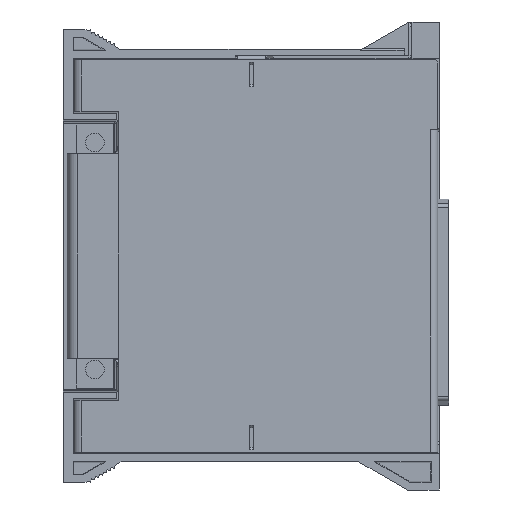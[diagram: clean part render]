
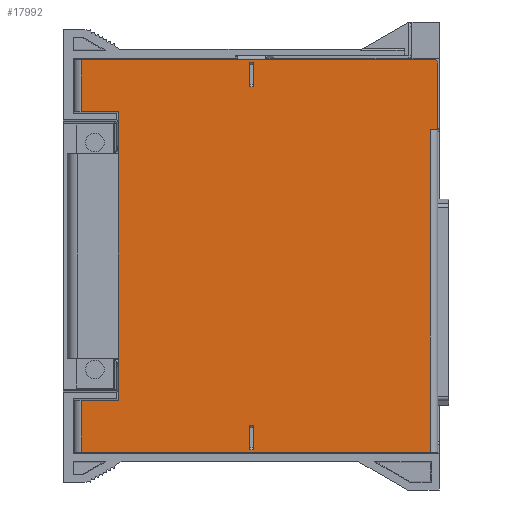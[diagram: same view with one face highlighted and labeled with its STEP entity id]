
A CAD part, top view. The second image highlights one B-rep face of the part: STEP entity #17992.
In plain terms, the highlighted planar face has unit normal (0, 0, 1).
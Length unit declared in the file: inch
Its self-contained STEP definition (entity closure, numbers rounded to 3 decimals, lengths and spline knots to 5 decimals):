
#1417=DIRECTION('',(0.,1.,0.));
#1418=VECTOR('',#1417,1.8);
#1419=CARTESIAN_POINT('',(-2.82745,-0.9,0.382));
#1420=LINE('',#1419,#1418);
#1425=DIRECTION('',(0.,1.,0.));
#1426=VECTOR('',#1425,0.3725);
#1427=CARTESIAN_POINT('',(-2.82745,0.9,0.382));
#1428=LINE('',#1427,#1426);
#1429=DIRECTION('',(1.,0.,0.));
#1430=VECTOR('',#1429,0.328);
#1431=CARTESIAN_POINT('',(-3.15545,1.2725,0.382));
#1432=LINE('',#1431,#1430);
#1433=DIRECTION('',(-1.,0.,0.));
#1434=VECTOR('',#1433,3.123);
#1435=CARTESIAN_POINT('',(-0.03245,1.73,0.382));
#1436=LINE('',#1435,#1434);
#1437=DIRECTION('',(0.,1.,0.));
#1438=VECTOR('',#1437,0.595);
#1439=CARTESIAN_POINT('',(-0.01245,1.115,0.382));
#1440=LINE('',#1439,#1438);
#1441=DIRECTION('',(1.,0.,0.));
#1442=VECTOR('',#1441,0.067);
#1443=CARTESIAN_POINT('',(-0.07945,1.115,0.382));
#1444=LINE('',#1443,#1442);
#1445=DIRECTION('',(1.,0.,0.));
#1446=VECTOR('',#1445,3.076);
#1447=CARTESIAN_POINT('',(-3.15545,-1.73,0.382));
#1448=LINE('',#1447,#1446);
#1449=DIRECTION('',(1.,0.,0.));
#1450=VECTOR('',#1449,0.328);
#1451=CARTESIAN_POINT('',(-3.15545,-1.2725,0.382));
#1452=LINE('',#1451,#1450);
#1453=DIRECTION('',(0.,1.,0.));
#1454=VECTOR('',#1453,0.3725);
#1455=CARTESIAN_POINT('',(-2.82745,-1.2725,0.382));
#1456=LINE('',#1455,#1454);
#1457=CARTESIAN_POINT('',(-1.65625,-1.6,0.382));
#1458=DIRECTION('',(0.,0.,-1.));
#1459=DIRECTION('',(-0.159,0.987,0.));
#1460=AXIS2_PLACEMENT_3D('',#1457,#1458,#1459);
#1462=DIRECTION('',(0.,-1.,0.));
#1463=VECTOR('',#1462,0.2172);
#1464=CARTESIAN_POINT('',(-1.67375,-1.4914,0.382));
#1465=LINE('',#1464,#1463);
#1466=CARTESIAN_POINT('',(-1.65625,-1.6,0.382));
#1467=DIRECTION('',(0.,0.,-1.));
#1468=DIRECTION('',(0.159,-0.987,0.));
#1469=AXIS2_PLACEMENT_3D('',#1466,#1467,#1468);
#1471=DIRECTION('',(0.,1.,0.));
#1472=VECTOR('',#1471,0.2172);
#1473=CARTESIAN_POINT('',(-1.63875,-1.7086,0.382));
#1474=LINE('',#1473,#1472);
#1475=CARTESIAN_POINT('',(-1.65625,1.6,0.382));
#1476=DIRECTION('',(0.,0.,1.));
#1477=DIRECTION('',(0.159,0.987,0.));
#1478=AXIS2_PLACEMENT_3D('',#1475,#1476,#1477);
#1480=DIRECTION('',(0.,-1.,0.));
#1481=VECTOR('',#1480,0.2172);
#1482=CARTESIAN_POINT('',(-1.67375,1.7086,0.382));
#1483=LINE('',#1482,#1481);
#1484=CARTESIAN_POINT('',(-1.65625,1.6,0.382));
#1485=DIRECTION('',(0.,0.,1.));
#1486=DIRECTION('',(-0.159,-0.987,0.));
#1487=AXIS2_PLACEMENT_3D('',#1484,#1485,#1486);
#1489=DIRECTION('',(0.,1.,0.));
#1490=VECTOR('',#1489,0.2172);
#1491=CARTESIAN_POINT('',(-1.63875,1.4914,0.382));
#1492=LINE('',#1491,#1490);
#1839=DIRECTION('',(0.,1.,0.));
#1840=VECTOR('',#1839,0.4575);
#1841=CARTESIAN_POINT('',(-3.15545,-1.73,0.382));
#1842=LINE('',#1841,#1840);
#7244=DIRECTION('',(0.,-1.,0.));
#7245=VECTOR('',#7244,2.845);
#7246=CARTESIAN_POINT('',(-0.07945,1.115,0.382));
#7247=LINE('',#7246,#7245);
#7339=DIRECTION('',(-0.707,0.707,0.));
#7340=VECTOR('',#7339,0.02828);
#7341=CARTESIAN_POINT('',(-0.01245,1.71,0.382));
#7342=LINE('',#7341,#7340);
#7386=DIRECTION('',(0.,1.,0.));
#7387=VECTOR('',#7386,0.4575);
#7388=CARTESIAN_POINT('',(-3.15545,1.2725,0.382));
#7389=LINE('',#7388,#7387);
#11087=CARTESIAN_POINT('',(-1.67375,-1.4914,0.382));
#11089=CARTESIAN_POINT('',(-1.63875,-1.4914,0.382));
#11114=CARTESIAN_POINT('',(-1.63875,-1.7086,0.382));
#11116=CARTESIAN_POINT('',(-1.67375,-1.7086,0.382));
#11128=CARTESIAN_POINT('',(-1.67375,1.7086,0.382));
#11140=CARTESIAN_POINT('',(-1.63875,1.7086,0.382));
#11155=CARTESIAN_POINT('',(-1.63875,1.4914,0.382));
#11167=CARTESIAN_POINT('',(-1.67375,1.4914,0.382));
#16407=CARTESIAN_POINT('',(-3.15545,1.73,0.382));
#16409=VERTEX_POINT('',#16407);
#16411=CARTESIAN_POINT('',(-3.15545,-1.73,0.382));
#16413=VERTEX_POINT('',#16411);
#16422=CARTESIAN_POINT('',(-3.15545,-1.2725,0.382));
#16423=CARTESIAN_POINT('',(-2.82745,-1.2725,0.382));
#16424=VERTEX_POINT('',#16422);
#16425=VERTEX_POINT('',#16423);
#16426=CARTESIAN_POINT('',(-3.15545,1.2725,0.382));
#16427=CARTESIAN_POINT('',(-2.82745,1.2725,0.382));
#16428=VERTEX_POINT('',#16426);
#16429=VERTEX_POINT('',#16427);
#16466=CARTESIAN_POINT('',(-0.07945,1.115,0.382));
#16467=CARTESIAN_POINT('',(-0.01245,1.115,0.382));
#16468=VERTEX_POINT('',#16466);
#16469=VERTEX_POINT('',#16467);
#16478=CARTESIAN_POINT('',(-0.07945,-1.73,0.382));
#16479=VERTEX_POINT('',#16478);
#16552=CARTESIAN_POINT('',(-0.01245,1.71,0.382));
#16553=CARTESIAN_POINT('',(-0.03245,1.73,0.382));
#16554=VERTEX_POINT('',#16552);
#16555=VERTEX_POINT('',#16553);
#16556=CARTESIAN_POINT('',(-2.82745,-0.9,0.382));
#16557=VERTEX_POINT('',#16556);
#16558=CARTESIAN_POINT('',(-2.82745,0.9,0.382));
#16559=VERTEX_POINT('',#16558);
#16662=VERTEX_POINT('',#11114);
#16663=VERTEX_POINT('',#11116);
#16668=VERTEX_POINT('',#11089);
#16669=VERTEX_POINT('',#11087);
#16698=VERTEX_POINT('',#11140);
#16699=VERTEX_POINT('',#11128);
#16704=VERTEX_POINT('',#11155);
#16705=VERTEX_POINT('',#11167);
#17940=CARTESIAN_POINT('',(-3.22245,0.,0.382));
#17941=DIRECTION('',(0.,0.,1.));
#17942=DIRECTION('',(1.,0.,0.));
#17943=AXIS2_PLACEMENT_3D('',#17940,#17941,#17942);
#17944=PLANE('',#17943);
#17945=ORIENTED_EDGE('',*,*,#17933,.T.);
#17947=ORIENTED_EDGE('',*,*,#17946,.T.);
#17949=ORIENTED_EDGE('',*,*,#17948,.F.);
#17951=ORIENTED_EDGE('',*,*,#17950,.T.);
#17953=ORIENTED_EDGE('',*,*,#17952,.F.);
#17955=ORIENTED_EDGE('',*,*,#17954,.F.);
#17957=ORIENTED_EDGE('',*,*,#17956,.F.);
#17959=ORIENTED_EDGE('',*,*,#17958,.F.);
#17961=ORIENTED_EDGE('',*,*,#17960,.T.);
#17963=ORIENTED_EDGE('',*,*,#17962,.F.);
#17965=ORIENTED_EDGE('',*,*,#17964,.T.);
#17967=ORIENTED_EDGE('',*,*,#17966,.T.);
#17969=ORIENTED_EDGE('',*,*,#17968,.T.);
#17970=EDGE_LOOP('',(#17945,#17947,#17949,#17951,#17953,#17955,#17957,#17959,
#17961,#17963,#17965,#17967,#17969));
#17971=FACE_OUTER_BOUND('',#17970,.F.);
#17973=ORIENTED_EDGE('',*,*,#17972,.F.);
#17975=ORIENTED_EDGE('',*,*,#17974,.T.);
#17977=ORIENTED_EDGE('',*,*,#17976,.F.);
#17979=ORIENTED_EDGE('',*,*,#17978,.T.);
#17980=EDGE_LOOP('',(#17973,#17975,#17977,#17979));
#17981=FACE_BOUND('',#17980,.F.);
#17983=ORIENTED_EDGE('',*,*,#17982,.T.);
#17985=ORIENTED_EDGE('',*,*,#17984,.T.);
#17987=ORIENTED_EDGE('',*,*,#17986,.T.);
#17989=ORIENTED_EDGE('',*,*,#17988,.T.);
#17990=EDGE_LOOP('',(#17983,#17985,#17987,#17989));
#17991=FACE_BOUND('',#17990,.F.);
#17992=ADVANCED_FACE('',(#17971,#17981,#17991),#17944,.T.);
#1461=CIRCLE('',#1460,0.11);
#1470=CIRCLE('',#1469,0.11);
#1479=CIRCLE('',#1478,0.11);
#1488=CIRCLE('',#1487,0.11);
#17933=EDGE_CURVE('',#16557,#16559,#1420,.T.);
#17946=EDGE_CURVE('',#16559,#16429,#1428,.T.);
#17948=EDGE_CURVE('',#16428,#16429,#1432,.T.);
#17950=EDGE_CURVE('',#16428,#16409,#7389,.T.);
#17952=EDGE_CURVE('',#16555,#16409,#1436,.T.);
#17954=EDGE_CURVE('',#16554,#16555,#7342,.T.);
#17956=EDGE_CURVE('',#16469,#16554,#1440,.T.);
#17958=EDGE_CURVE('',#16468,#16469,#1444,.T.);
#17960=EDGE_CURVE('',#16468,#16479,#7247,.T.);
#17962=EDGE_CURVE('',#16413,#16479,#1448,.T.);
#17964=EDGE_CURVE('',#16413,#16424,#1842,.T.);
#17966=EDGE_CURVE('',#16424,#16425,#1452,.T.);
#17968=EDGE_CURVE('',#16425,#16557,#1456,.T.);
#17972=EDGE_CURVE('',#16669,#16668,#1461,.T.);
#17974=EDGE_CURVE('',#16669,#16663,#1465,.T.);
#17976=EDGE_CURVE('',#16662,#16663,#1470,.T.);
#17978=EDGE_CURVE('',#16662,#16668,#1474,.T.);
#17982=EDGE_CURVE('',#16698,#16699,#1479,.T.);
#17984=EDGE_CURVE('',#16699,#16705,#1483,.T.);
#17986=EDGE_CURVE('',#16705,#16704,#1488,.T.);
#17988=EDGE_CURVE('',#16704,#16698,#1492,.T.);
